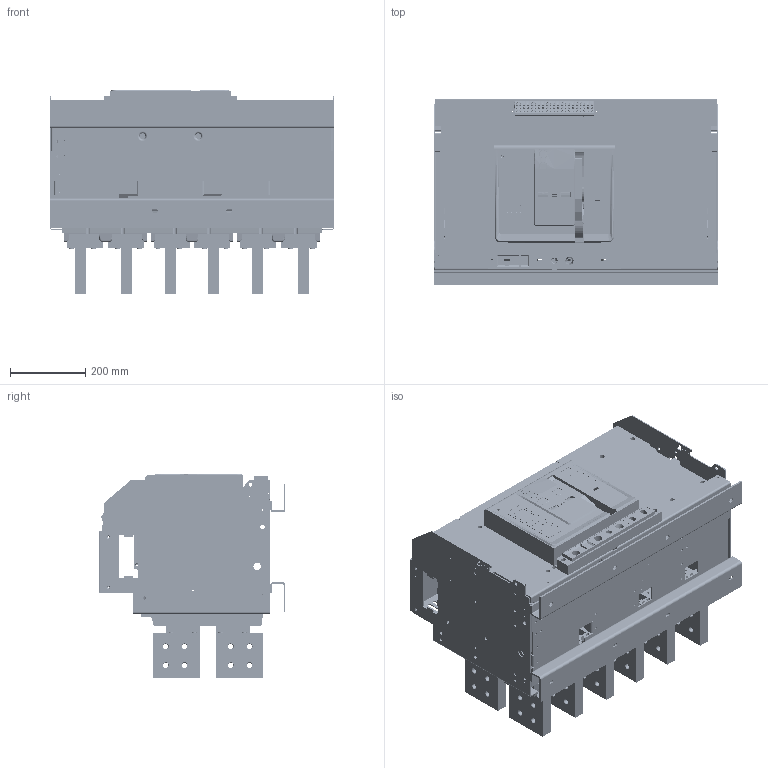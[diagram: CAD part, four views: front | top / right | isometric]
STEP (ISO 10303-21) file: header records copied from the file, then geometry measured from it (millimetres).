
FILE_DESCRIPTION (( 'STEP AP203' ), '1' );
FILE_NAME ('W6-6300 3P ??? In6300A 禖鳱.STEP', '2024-07-17T11:41:59', ( '' ), ( '' ), 'SwSTEP 2.0', 'SolidWorks 2022', '' );
FILE_SCHEMA (( 'CONFIG_CONTROL_DESIGN' ));
Length unit declared in the file: millimetre
Products named in the file (234): W6-6300 3P 抽屉式 In6300A.sldasm-Part-182-1; W6-6300 3P 抽屉式 In6300A.sldasm-Part-162-1; W6-6300 3P 抽屉式 In6300A.sldasm-Part-28-1; W6-6300 3P 抽屉式 In6300A.sldasm-Part-187-1; W6-6300 3P 抽屉式 In6300A.sldasm-Part-65-1; W6-6300 3P 抽屉式 In6300A.sldasm-Part-93-1; W6-6300 3P 抽屉式 In6300A.sldasm-Part-179-1; W6-6300 3P 抽屉式 In6300A.sldasm-Part-193-1; W6-6300 3P 抽屉式 In6300A.sldasm-Part-85-1; W6-6300 3P 抽屉式 In6300A.sldasm-Part-215-1; W6-6300 3P 抽屉式 In6300A.sldasm-Part-198-1; W6-6300 3P 抽屉式 In6300A.sldasm-Part-8-1; W6-6300 3P 抽屉式 In6300A.sldasm-Part-60-1; W6-6300 3P 抽屉式 In6300A.sldasm-Part-222-1; W6-6300 3P 抽屉式 In6300A.sldasm-Part-77-1; W6-6300 3P 抽屉式 In6300A.sldasm-Part-59-1; W6-6300 3P 抽屉式 In6300A.sldasm-Part-219-1; W6-6300 3P 抽屉式 In6300A.sldasm-Part-122-1; W6-6300 3P 抽屉式 In6300A.sldasm-Part-17-1; W6-6300 3P 抽屉式 In6300A.sldasm-Part-7-1; W6-6300 3P 抽屉式 In6300A.sldasm-Part-2-1; W6-6300 3P 抽屉式 In6300A.sldasm-Part-125-1; W6-6300 3P 抽屉式 In6300A.sldasm-Part-233-1; W6-6300 3P 抽屉式 In6300A.sldasm-Part-139-1; W6-6300 3P 抽屉式 In6300A.sldasm-Part-201-1; W6-6300 3P 抽屉式 In6300A.sldasm-Part-103-1; W6-6300 3P 抽屉式 In6300A.sldasm-Part-118-1; W6-6300 3P 抽屉式 In6300A.sldasm-Part-223-1; W6-6300 3P 抽屉式 In6300A.sldasm-Part-109-1; W6-6300 3P 抽屉式 In6300A.sldasm-Part-33-1; W6-6300 3P 抽屉式 In6300A.sldasm-Part-165-1; W6-6300 3P 抽屉式 In6300A.sldasm-Part-76-1; W6-6300 3P 抽屉式 In6300A.sldasm-Part-231-1; W6-6300 3P 抽屉式 In6300A.sldasm-Part-184-1; W6-6300 3P 抽屉式 In6300A.sldasm-Part-205-1; W6-6300 3P 抽屉式 In6300A.sldasm-Part-79-1; W6-6300 3P 抽屉式 In6300A.sldasm-Part-13-1; W6-6300 3P 抽屉式 In6300A.sldasm-Part-124-1; W6-6300 3P 抽屉式 In6300A.sldasm-Part-142-1; W6-6300 3P 抽屉式 In6300A.sldasm-Part-98-1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
Assembly tree (233 placements, depth 2):
  W6-6300 3P 抽屉式 In6300A выдв
    W6-6300 3P 抽屉式 In6300A.sldasm-Part-1-1
    W6-6300 3P 抽屉式 In6300A.sldasm-Part-2-1
    W6-6300 3P 抽屉式 In6300A.sldasm-Part-3-1
    W6-6300 3P 抽屉式 In6300A.sldasm-Part-4-1
    W6-6300 3P 抽屉式 In6300A.sldasm-Part-5-1
    W6-6300 3P 抽屉式 In6300A.sldasm-Part-6-1
    W6-6300 3P 抽屉式 In6300A.sldasm-Part-7-1
    W6-6300 3P 抽屉式 In6300A.sldasm-Part-8-1
    W6-6300 3P 抽屉式 In6300A.sldasm-Part-9-1
    W6-6300 3P 抽屉式 In6300A.sldasm-Part-10-1
    W6-6300 3P 抽屉式 In6300A.sldasm-Part-11-1
    W6-6300 3P 抽屉式 In6300A.sldasm-Part-12-1
    W6-6300 3P 抽屉式 In6300A.sldasm-Part-13-1
    W6-6300 3P 抽屉式 In6300A.sldasm-Part-14-1
    W6-6300 3P 抽屉式 In6300A.sldasm-Part-15-1
    W6-6300 3P 抽屉式 In6300A.sldasm-Part-16-1
    W6-6300 3P 抽屉式 In6300A.sldasm-Part-17-1
    W6-6300 3P 抽屉式 In6300A.sldasm-Part-18-1
    W6-6300 3P 抽屉式 In6300A.sldasm-Part-19-1
    W6-6300 3P 抽屉式 In6300A.sldasm-Part-20-1
    W6-6300 3P 抽屉式 In6300A.sldasm-Part-21-1
    W6-6300 3P 抽屉式 In6300A.sldasm-Part-22-1
    W6-6300 3P 抽屉式 In6300A.sldasm-Part-23-1
    W6-6300 3P 抽屉式 In6300A.sldasm-Part-24-1
    W6-6300 3P 抽屉式 In6300A.sldasm-Part-25-1
    W6-6300 3P 抽屉式 In6300A.sldasm-Part-26-1
    W6-6300 3P 抽屉式 In6300A.sldasm-Part-27-1
    W6-6300 3P 抽屉式 In6300A.sldasm-Part-28-1
    W6-6300 3P 抽屉式 In6300A.sldasm-Part-29-1
    W6-6300 3P 抽屉式 In6300A.sldasm-Part-30-1
    W6-6300 3P 抽屉式 In6300A.sldasm-Part-31-1
    W6-6300 3P 抽屉式 In6300A.sldasm-Part-32-1
    W6-6300 3P 抽屉式 In6300A.sldasm-Part-33-1
    W6-6300 3P 抽屉式 In6300A.sldasm-Part-34-1
    W6-6300 3P 抽屉式 In6300A.sldasm-Part-35-1
    W6-6300 3P 抽屉式 In6300A.sldasm-Part-36-1
    W6-6300 3P 抽屉式 In6300A.sldasm-Part-37-1
    W6-6300 3P 抽屉式 In6300A.sldasm-Part-38-1
    W6-6300 3P 抽屉式 In6300A.sldasm-Part-39-1
    W6-6300 3P 抽屉式 In6300A.sldasm-Part-40-1
    W6-6300 3P 抽屉式 In6300A.sldasm-Part-41-1
    W6-6300 3P 抽屉式 In6300A.sldasm-Part-42-1
    W6-6300 3P 抽屉式 In6300A.sldasm-Part-43-1
    W6-6300 3P 抽屉式 In6300A.sldasm-Part-44-1
    W6-6300 3P 抽屉式 In6300A.sldasm-Part-45-1
    W6-6300 3P 抽屉式 In6300A.sldasm-Part-46-1
    W6-6300 3P 抽屉式 In6300A.sldasm-Part-47-1
    W6-6300 3P 抽屉式 In6300A.sldasm-Part-48-1
    W6-6300 3P 抽屉式 In6300A.sldasm-Part-49-1
    W6-6300 3P 抽屉式 In6300A.sldasm-Part-50-1
    W6-6300 3P 抽屉式 In6300A.sldasm-Part-51-1
    W6-6300 3P 抽屉式 In6300A.sldasm-Part-52-1
    W6-6300 3P 抽屉式 In6300A.sldasm-Part-53-1
    W6-6300 3P 抽屉式 In6300A.sldasm-Part-54-1
    W6-6300 3P 抽屉式 In6300A.sldasm-Part-55-1
    W6-6300 3P 抽屉式 In6300A.sldasm-Part-56-1
    W6-6300 3P 抽屉式 In6300A.sldasm-Part-57-1
    W6-6300 3P 抽屉式 In6300A.sldasm-Part-58-1
    W6-6300 3P 抽屉式 In6300A.sldasm-Part-59-1
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Bounding box: 757 x 497 x 545 mm (x, y, z)
Volume: 32277711.5 mm3; surface area: 9837608.7 mm2
Topology: 233 solids, 233 shells, 31214 faces, 87368 edges, 56858 vertices
Faces by surface type: plane 20476, cylinder 8380, cone 1483, torus 508, bspline 337, sphere 30
Entity records: 1071622 total; most frequent: CARTESIAN_POINT 229903, ORIENTED_EDGE 174360, DIRECTION 166050, EDGE_CURVE 87180, LINE 65156, VECTOR 65156, VERTEX_POINT 56858, AXIS2_PLACEMENT_3D 50447
